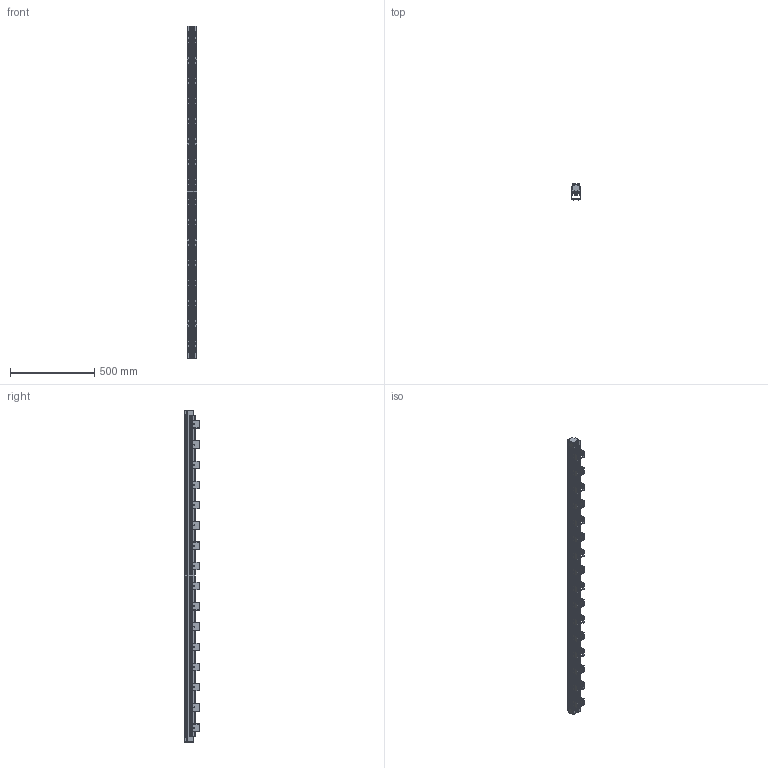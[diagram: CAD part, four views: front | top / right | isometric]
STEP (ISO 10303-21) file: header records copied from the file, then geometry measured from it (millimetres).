
FILE_DESCRIPTION((''),'2;1');
FILE_NAME('P-LSG-1900_ASM','2021-12-09T',('hyj'),(''),'PRO/ENGINEER BY PARAMETRIC TECHNOLOGY CORPORATION, 2010100','PRO/ENGINEER BY PARAMETRIC TECHNOLOGY CORPORATION, 2010100','');
FILE_SCHEMA(('CONFIG_CONTROL_DESIGN'));
Length unit declared in the file: millimetre
Products named in the file (3): SRP; FSZ; P-LSG-1900_ASM
Assembly tree (17 placements, depth 2):
  P-LSG-1900_ASM
    SRP
    FSZ  x16
Bounding box: 58 x 92.5 x 1970 mm (x, y, z)
Volume: 5353839.1 mm3; surface area: 1441070.5 mm2
Topology: 17 solids, 84 shells, 1666 faces, 4348 edges, 2736 vertices
Faces by surface type: plane 900, cylinder 542, cone 224
Entity records: 19029 total; most frequent: DIRECTION 3406, CARTESIAN_POINT 3230, ORIENTED_EDGE 3124, EDGE_CURVE 1570, AXIS2_PLACEMENT_3D 1168, VECTOR 1070, LINE 1070, VERTEX_POINT 992
